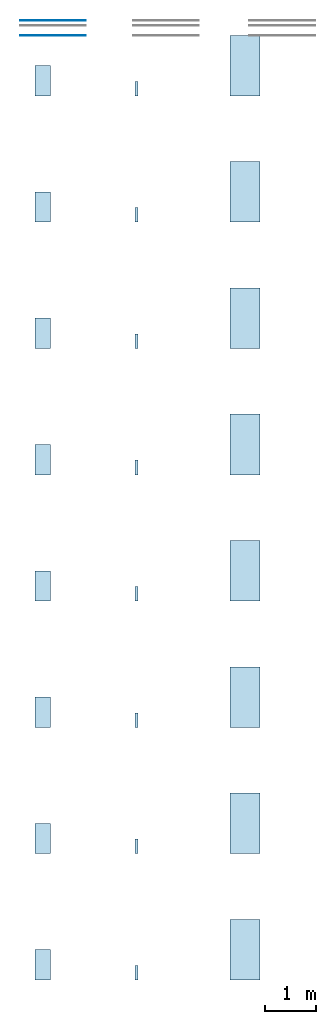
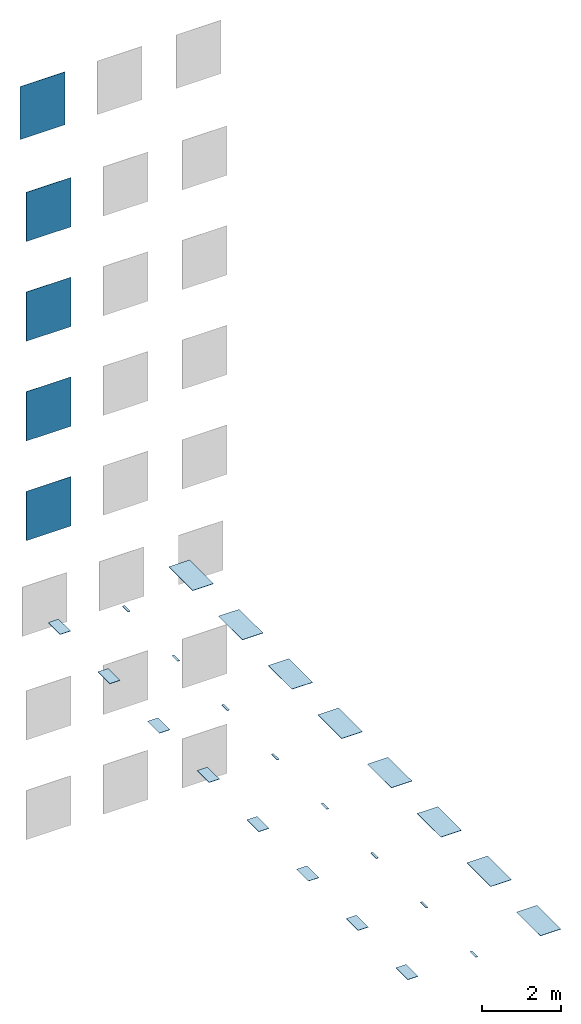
# One storey, part 1 of 2: 24 slabs, 5 walls.
"""IFC2X3 building model written with IfcOpenShell, lengths in millimetres."""

from ifc_helpers import new_model, entity, si_unit, converted_unit, derived_unit, direction, frame, frame_2d, origin, place, context, subcontext, project, spatial, rectangle, extrude, material, layer, layer_set, layer_usage, type_object, element, save


model = new_model("IFC2X3")

# Units and contexts
model_context = context("Model", 3, precision=0.01, world=origin(), true_north=direction((6.123031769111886e-17, 1.0)))
body_context = subcontext(model_context, "Body", "Model", "MODEL_VIEW")
ifc_project = project(units=[si_unit("LENGTHUNIT", "METRE", prefix="MILLI"), si_unit("AREAUNIT", "SQUARE_METRE"), si_unit("VOLUMEUNIT", "CUBIC_METRE"), converted_unit("PLANEANGLEUNIT", "DEGREE", entity("IfcPlaneAngleMeasure", 0.017453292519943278), si_unit("PLANEANGLEUNIT", "RADIAN"), dimensions=[0, 0, 0, 0, 0, 0, 0]), si_unit("MASSUNIT", "GRAM", prefix="KILO"), derived_unit("MASSDENSITYUNIT", [(si_unit("MASSUNIT", "GRAM", prefix="KILO"), 1), (si_unit("LENGTHUNIT", "METRE"), -3)]), derived_unit("IONCONCENTRATIONUNIT", [(si_unit("MASSUNIT", "GRAM", prefix="KILO"), 1), (si_unit("LENGTHUNIT", "METRE"), -3)]), derived_unit("MOMENTOFINERTIAUNIT", [(si_unit("LENGTHUNIT", "METRE"), 4)]), si_unit("TIMEUNIT", "SECOND"), si_unit("FREQUENCYUNIT", "HERTZ"), si_unit("THERMODYNAMICTEMPERATUREUNIT", "DEGREE_CELSIUS"), derived_unit("THERMALTRANSMITTANCEUNIT", [(si_unit("MASSUNIT", "GRAM", prefix="KILO"), 1), (si_unit("THERMODYNAMICTEMPERATUREUNIT", "KELVIN"), -1), (si_unit("TIMEUNIT", "SECOND"), -3)]), derived_unit("THERMALCONDUCTANCEUNIT", [(si_unit("MASSUNIT", "GRAM", prefix="KILO"), 1), (si_unit("THERMODYNAMICTEMPERATUREUNIT", "KELVIN"), -1), (si_unit("TIMEUNIT", "SECOND"), -3), (si_unit("LENGTHUNIT", "METRE"), 1)]), derived_unit("VOLUMETRICFLOWRATEUNIT", [(si_unit("LENGTHUNIT", "METRE", prefix="DECI"), 3), (si_unit("TIMEUNIT", "SECOND"), -1)]), derived_unit("MASSFLOWRATEUNIT", [(si_unit("MASSUNIT", "GRAM", prefix="KILO"), 1), (si_unit("TIMEUNIT", "SECOND"), -1)]), derived_unit("ROTATIONALFREQUENCYUNIT", [(si_unit("TIMEUNIT", "SECOND"), -1)]), si_unit("ELECTRICCURRENTUNIT", "AMPERE"), si_unit("ELECTRICVOLTAGEUNIT", "VOLT"), si_unit("POWERUNIT", "WATT"), si_unit("FORCEUNIT", "NEWTON", prefix="KILO"), si_unit("ILLUMINANCEUNIT", "LUX"), si_unit("LUMINOUSFLUXUNIT", "LUMEN"), si_unit("LUMINOUSINTENSITYUNIT", "CANDELA"), si_unit("ENERGYUNIT", "JOULE"), derived_unit("USERDEFINED", [(si_unit("MASSUNIT", "GRAM", prefix="KILO"), -1), (si_unit("LENGTHUNIT", "METRE"), -2), (si_unit("TIMEUNIT", "SECOND"), 3), (si_unit("LUMINOUSFLUXUNIT", "LUMEN"), 1)]), derived_unit("USERDEFINED", [(si_unit("MASSUNIT", "GRAM", prefix="KILO"), 1), (si_unit("TIMEUNIT", "SECOND"), -3), (si_unit("LENGTHUNIT", "METRE"), 3), (si_unit("ELECTRICCURRENTUNIT", "AMPERE"), -2)]), derived_unit("SOUNDPOWERUNIT", [(si_unit("MASSUNIT", "GRAM", prefix="KILO"), 1), (si_unit("TIMEUNIT", "SECOND"), -3), (si_unit("LENGTHUNIT", "METRE"), 2)]), derived_unit("SOUNDPRESSUREUNIT", [(si_unit("MASSUNIT", "GRAM", prefix="KILO"), 1), (si_unit("LENGTHUNIT", "METRE"), -1), (si_unit("TIMEUNIT", "SECOND"), -2)]), derived_unit("LINEARVELOCITYUNIT", [(si_unit("LENGTHUNIT", "METRE"), 1), (si_unit("TIMEUNIT", "SECOND"), -1)]), si_unit("PRESSUREUNIT", "PASCAL"), derived_unit("USERDEFINED", [(si_unit("MASSUNIT", "GRAM", prefix="KILO"), 1), (si_unit("LENGTHUNIT", "METRE"), -2), (si_unit("TIMEUNIT", "SECOND"), -2)]), derived_unit("LINEARFORCEUNIT", [(si_unit("MASSUNIT", "GRAM", prefix="KILO"), 1), (si_unit("TIMEUNIT", "SECOND"), -2)]), derived_unit("PLANARFORCEUNIT", [(si_unit("MASSUNIT", "GRAM", prefix="KILO"), 1), (si_unit("LENGTHUNIT", "METRE"), -1), (si_unit("TIMEUNIT", "SECOND"), -2)]), derived_unit("SPECIFICHEATCAPACITYUNIT", [(si_unit("THERMODYNAMICTEMPERATUREUNIT", "KELVIN"), -1), (si_unit("LENGTHUNIT", "METRE"), 2), (si_unit("TIMEUNIT", "SECOND"), -2)]), derived_unit("HEATFLUXDENSITYUNIT", [(si_unit("MASSUNIT", "GRAM", prefix="KILO"), 1), (si_unit("TIMEUNIT", "SECOND"), -3)]), derived_unit("HEATINGVALUEUNIT", [(si_unit("LENGTHUNIT", "METRE"), 2), (si_unit("TIMEUNIT", "SECOND"), -2)]), derived_unit("VAPORPERMEABILITYUNIT", [(si_unit("LENGTHUNIT", "METRE"), -1), (si_unit("TIMEUNIT", "SECOND"), 1)]), derived_unit("DYNAMICVISCOSITYUNIT", [(si_unit("MASSUNIT", "GRAM", prefix="KILO"), 1), (si_unit("TIMEUNIT", "SECOND"), -1), (si_unit("LENGTHUNIT", "METRE"), -1)]), derived_unit("THERMALEXPANSIONCOEFFICIENTUNIT", [(si_unit("THERMODYNAMICTEMPERATUREUNIT", "KELVIN"), -1)]), derived_unit("MODULUSOFELASTICITYUNIT", [(si_unit("MASSUNIT", "GRAM", prefix="KILO"), 1), (si_unit("LENGTHUNIT", "METRE"), -1), (si_unit("TIMEUNIT", "SECOND"), -2)]), derived_unit("ISOTHERMALMOISTURECAPACITYUNIT", [(si_unit("MASSUNIT", "GRAM", prefix="KILO"), -1), (si_unit("LENGTHUNIT", "METRE"), 3)]), derived_unit("MOISTUREDIFFUSIVITYUNIT", [(si_unit("TIMEUNIT", "SECOND"), -1), (si_unit("LENGTHUNIT", "METRE"), 2)]), derived_unit("MASSPERLENGTHUNIT", [(si_unit("MASSUNIT", "GRAM", prefix="KILO"), 1), (si_unit("LENGTHUNIT", "METRE"), -1)]), derived_unit("THERMALRESISTANCEUNIT", [(si_unit("MASSUNIT", "GRAM", prefix="KILO"), -1), (si_unit("TIMEUNIT", "SECOND"), 3), (si_unit("THERMODYNAMICTEMPERATUREUNIT", "KELVIN"), 1)]), derived_unit("ACCELERATIONUNIT", [(si_unit("LENGTHUNIT", "METRE"), 1), (si_unit("TIMEUNIT", "SECOND"), -2)]), derived_unit("ANGULARVELOCITYUNIT", [(si_unit("TIMEUNIT", "SECOND"), -1), (si_unit("PLANEANGLEUNIT", "RADIAN"), 1)]), derived_unit("LINEARSTIFFNESSUNIT", [(si_unit("MASSUNIT", "GRAM", prefix="KILO"), 1), (si_unit("TIMEUNIT", "SECOND"), -2)]), derived_unit("WARPINGCONSTANTUNIT", [(si_unit("LENGTHUNIT", "METRE"), 6)]), derived_unit("LINEARMOMENTUNIT", [(si_unit("MASSUNIT", "GRAM", prefix="KILO"), 1), (si_unit("LENGTHUNIT", "METRE"), 1), (si_unit("TIMEUNIT", "SECOND"), -2)]), derived_unit("TORQUEUNIT", [(si_unit("MASSUNIT", "GRAM", prefix="KILO"), 1), (si_unit("LENGTHUNIT", "METRE"), 2), (si_unit("TIMEUNIT", "SECOND"), -2)])], contexts=[model_context])

# Site, building, storey
site_placement = place(None, origin())
site = spatial("IfcSite", under=ifc_project, at=site_placement, Name="Default", CompositionType="ELEMENT")
building_placement = place(site_placement, origin())
building = spatial("IfcBuilding", under=site, at=building_placement, CompositionType="ELEMENT")
storey_placement = place(building_placement, origin())
storey = spatial("IfcBuildingStorey", under=building, at=storey_placement, Name="Level 0", CompositionType="ELEMENT", Elevation=0.0)

# Slabs
ifc_material_1 = material(Name="Upside-Black-30x60 RK33")
ifc_layer_1 = layer(ifc_material_1, 9.0)
ifc_material_2 = material(Name="<Unnamed>")
ifc_layer_2 = layer(ifc_material_2, 1.0)
ifc_layer_set_1 = layer_set([ifc_layer_1, ifc_layer_2], Name="Floor:Floor_Tiles_Refin-Upside-Black-30x60 RK33")
ifc_layer_usage_1 = layer_usage(ifc_layer_set_1, "AXIS3", "POSITIVE", 0.0)
slab_type_1 = type_object("IfcSlabType", Name="Floor:Floor_Tiles_Refin-Upside-Black-30x60 RK33", PredefinedType="FLOOR", material=ifc_layer_set_1)
slab_1_placement = place(storey_placement, origin())
element("IfcSlab", 1, at=slab_1_placement, inside=storey, type_object=slab_type_1, material=ifc_layer_usage_1, Name="Floor:Floor_Tiles_Refin-Upside-Black-30x60 RK33", ObjectType="Floor:Floor_Tiles_Refin-Upside-Black-30x60 RK33", PredefinedType="FLOOR", context=body_context, shape_type="SweptSolid", body=[
    extrude(rectangle(XDim=600.0, YDim=300.0, at=frame_2d((1.0800249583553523e-12, -5.400124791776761e-13), x_axis=(1.0, 0.0))), frame((6824.375206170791, 6939.462374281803, 0.0), z_axis=(0.0, 0.0, -1.0), x_axis=(0.0, 1.0, 0.0)), (0.0, 0.0, 1.0), 10.0),
])
ifc_material_3 = material(Name="Upside-Black-6,3x29 RK41")
ifc_layer_3 = layer(ifc_material_3, 9.0)
ifc_layer_4 = layer(ifc_material_2, 1.0)
ifc_layer_set_2 = layer_set([ifc_layer_3, ifc_layer_4], Name="Floor:Floor_Tiles_Refin-Upside-Black-6,3x29 RK41")
ifc_layer_usage_2 = layer_usage(ifc_layer_set_2, "AXIS3", "POSITIVE", 0.0)
slab_type_2 = type_object("IfcSlabType", Name="Floor:Floor_Tiles_Refin-Upside-Black-6,3x29 RK41", PredefinedType="FLOOR", material=ifc_layer_set_2)
slab_2_placement = place(storey_placement, origin())
element("IfcSlab", 2, at=slab_2_placement, inside=storey, type_object=slab_type_2, material=ifc_layer_usage_2, Name="Floor:Floor_Tiles_Refin-Upside-Black-6,3x29 RK41", ObjectType="Floor:Floor_Tiles_Refin-Upside-Black-6,3x29 RK41", PredefinedType="FLOOR", context=body_context, shape_type="SweptSolid", body=[
    extrude(rectangle(XDim=290.0000000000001, YDim=62.99999999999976, at=frame_2d((5.400124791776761e-13, 5.417888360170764e-13), x_axis=(1.0, 0.0))), frame((8678.89240545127, 6784.462374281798, 0.0), z_axis=(0.0, 0.0, -1.0), x_axis=(0.0, 1.0, 0.0)), (0.0, 0.0, 1.0), 10.0),
])
ifc_material_4 = material(Name="Upside-Black-60x120 RK25")
ifc_layer_5 = layer(ifc_material_4, 9.0)
ifc_layer_6 = layer(ifc_material_2, 1.0)
ifc_layer_set_3 = layer_set([ifc_layer_5, ifc_layer_6], Name="Floor:Floor_Tiles_Refin-Upside-Black-60x120 RK25")
ifc_layer_usage_3 = layer_usage(ifc_layer_set_3, "AXIS3", "POSITIVE", 0.0)
slab_type_3 = type_object("IfcSlabType", Name="Floor:Floor_Tiles_Refin-Upside-Black-60x120 RK25", PredefinedType="FLOOR", material=ifc_layer_set_3)
slab_3_placement = place(storey_placement, origin())
element("IfcSlab", 3, at=slab_3_placement, inside=storey, type_object=slab_type_3, material=ifc_layer_usage_3, Name="Floor:Floor_Tiles_Refin-Upside-Black-60x120 RK25", ObjectType="Floor:Floor_Tiles_Refin-Upside-Black-60x120 RK25", PredefinedType="FLOOR", context=body_context, shape_type="SweptSolid", body=[
    extrude(rectangle(XDim=1200.0, YDim=600.0, at=frame_2d((0.0, 1.0800249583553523e-12), x_axis=(1.0, 0.0))), frame((10827.186141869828, 7239.462374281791, 0.0), z_axis=(0.0, 0.0, -1.0), x_axis=(0.0, 1.0, 0.0)), (0.0, 0.0, 1.0), 10.0),
])
ifc_material_5 = material(Name="Upside-Blue-30x60 RK34")
ifc_layer_7 = layer(ifc_material_5, 9.0)
ifc_layer_8 = layer(ifc_material_2, 1.0)
ifc_layer_set_4 = layer_set([ifc_layer_7, ifc_layer_8], Name="Floor:Floor_Tiles_Refin-Upside-Blue-30x60 RK34")
ifc_layer_usage_4 = layer_usage(ifc_layer_set_4, "AXIS3", "POSITIVE", 0.0)
slab_type_4 = type_object("IfcSlabType", Name="Floor:Floor_Tiles_Refin-Upside-Blue-30x60 RK34", PredefinedType="FLOOR", material=ifc_layer_set_4)
slab_4_placement = place(storey_placement, origin())
element("IfcSlab", 4, at=slab_4_placement, inside=storey, type_object=slab_type_4, material=ifc_layer_usage_4, Name="Floor:Floor_Tiles_Refin-Upside-Blue-30x60 RK34", ObjectType="Floor:Floor_Tiles_Refin-Upside-Blue-30x60 RK34", PredefinedType="FLOOR", context=body_context, shape_type="SweptSolid", body=[
    extrude(rectangle(XDim=600.0, YDim=300.0, at=frame_2d((0.0, 5.400124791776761e-13), x_axis=(1.0, 0.0))), frame((6824.375206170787, 4439.462374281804, 0.0), z_axis=(0.0, 0.0, -1.0), x_axis=(0.0, 1.0, 0.0)), (0.0, 0.0, 1.0), 10.0),
])
ifc_material_6 = material(Name="Upside-Blue-6,3x29 RK42")
ifc_layer_9 = layer(ifc_material_6, 9.0)
ifc_layer_10 = layer(ifc_material_2, 1.0)
ifc_layer_set_5 = layer_set([ifc_layer_9, ifc_layer_10], Name="Floor:Floor_Tiles_Refin-Upside-Blue-6,3x29 RK42")
ifc_layer_usage_5 = layer_usage(ifc_layer_set_5, "AXIS3", "POSITIVE", 0.0)
slab_type_5 = type_object("IfcSlabType", Name="Floor:Floor_Tiles_Refin-Upside-Blue-6,3x29 RK42", PredefinedType="FLOOR", material=ifc_layer_set_5)
slab_5_placement = place(storey_placement, origin())
element("IfcSlab", 5, at=slab_5_placement, inside=storey, type_object=slab_type_5, material=ifc_layer_usage_5, Name="Floor:Floor_Tiles_Refin-Upside-Blue-6,3x29 RK42", ObjectType="Floor:Floor_Tiles_Refin-Upside-Blue-6,3x29 RK42", PredefinedType="FLOOR", context=body_context, shape_type="SweptSolid", body=[
    extrude(rectangle(XDim=290.0000000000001, YDim=62.99999999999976, at=frame_2d((-5.400124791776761e-13, -5.417888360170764e-13), x_axis=(1.0, 0.0))), frame((8678.892405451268, 4284.4623742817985, 0.0), z_axis=(0.0, 0.0, -1.0), x_axis=(0.0, 1.0, 0.0)), (0.0, 0.0, 1.0), 10.0),
])
ifc_material_7 = material(Name="Upside-Blue-60x120 RK26")
ifc_layer_11 = layer(ifc_material_7, 9.0)
ifc_layer_12 = layer(ifc_material_2, 1.0)
ifc_layer_set_6 = layer_set([ifc_layer_11, ifc_layer_12], Name="Floor:Floor_Tiles_Refin-Upside-Blue-60x120 RK26")
ifc_layer_usage_6 = layer_usage(ifc_layer_set_6, "AXIS3", "POSITIVE", 0.0)
slab_type_6 = type_object("IfcSlabType", Name="Floor:Floor_Tiles_Refin-Upside-Blue-60x120 RK26", PredefinedType="FLOOR", material=ifc_layer_set_6)
slab_6_placement = place(storey_placement, origin())
element("IfcSlab", 6, at=slab_6_placement, inside=storey, type_object=slab_type_6, material=ifc_layer_usage_6, Name="Floor:Floor_Tiles_Refin-Upside-Blue-60x120 RK26", ObjectType="Floor:Floor_Tiles_Refin-Upside-Blue-60x120 RK26", PredefinedType="FLOOR", context=body_context, shape_type="SweptSolid", body=[
    extrude(rectangle(XDim=1200.0, YDim=600.0, at=frame_2d((0.0, 1.0800249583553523e-12), x_axis=(1.0, 0.0))), frame((10827.186141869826, 4739.462374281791, 0.0), z_axis=(0.0, 0.0, -1.0), x_axis=(0.0, 1.0, 0.0)), (0.0, 0.0, 1.0), 10.0),
])
ifc_material_8 = material(Name="Upside-Green-30x60 RK35")
ifc_layer_13 = layer(ifc_material_8, 9.0)
ifc_layer_14 = layer(ifc_material_2, 1.0)
ifc_layer_set_7 = layer_set([ifc_layer_13, ifc_layer_14], Name="Floor:Floor_Tiles_Refin-Upside-Green-30x60 RK35")
ifc_layer_usage_7 = layer_usage(ifc_layer_set_7, "AXIS3", "POSITIVE", 0.0)
slab_type_7 = type_object("IfcSlabType", Name="Floor:Floor_Tiles_Refin-Upside-Green-30x60 RK35", PredefinedType="FLOOR", material=ifc_layer_set_7)
slab_7_placement = place(storey_placement, origin())
element("IfcSlab", 7, at=slab_7_placement, inside=storey, type_object=slab_type_7, material=ifc_layer_usage_7, Name="Floor:Floor_Tiles_Refin-Upside-Green-30x60 RK35", ObjectType="Floor:Floor_Tiles_Refin-Upside-Green-30x60 RK35", PredefinedType="FLOOR", context=body_context, shape_type="SweptSolid", body=[
    extrude(rectangle(XDim=600.0, YDim=300.0, at=frame_2d((0.0, 5.400124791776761e-13), x_axis=(1.0, 0.0))), frame((6824.375206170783, 1939.462374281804, 0.0), z_axis=(0.0, 0.0, -1.0), x_axis=(0.0, 1.0, 0.0)), (0.0, 0.0, 1.0), 10.0),
])
ifc_material_9 = material(Name="Upside-Green-6,3x29 RK43")
ifc_layer_15 = layer(ifc_material_9, 9.0)
ifc_layer_16 = layer(ifc_material_2, 1.0)
ifc_layer_set_8 = layer_set([ifc_layer_15, ifc_layer_16], Name="Floor:Floor_Tiles_Refin-Upside-Green-6,3x29 RK43")
ifc_layer_usage_8 = layer_usage(ifc_layer_set_8, "AXIS3", "POSITIVE", 0.0)
slab_type_8 = type_object("IfcSlabType", Name="Floor:Floor_Tiles_Refin-Upside-Green-6,3x29 RK43", PredefinedType="FLOOR", material=ifc_layer_set_8)
slab_8_placement = place(storey_placement, origin())
element("IfcSlab", 8, at=slab_8_placement, inside=storey, type_object=slab_type_8, material=ifc_layer_usage_8, Name="Floor:Floor_Tiles_Refin-Upside-Green-6,3x29 RK43", ObjectType="Floor:Floor_Tiles_Refin-Upside-Green-6,3x29 RK43", PredefinedType="FLOOR", context=body_context, shape_type="SweptSolid", body=[
    extrude(rectangle(XDim=290.0000000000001, YDim=62.99999999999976, at=frame_2d((0.0, -5.417888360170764e-13), x_axis=(1.0, 0.0))), frame((8678.892405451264, 1784.4623742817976, 0.0), z_axis=(0.0, 0.0, -1.0), x_axis=(0.0, 1.0, 0.0)), (0.0, 0.0, 1.0), 10.0),
])
ifc_material_10 = material(Name="Upside-Green-60x120 RK27")
ifc_layer_17 = layer(ifc_material_10, 9.0)
ifc_layer_18 = layer(ifc_material_2, 1.0)
ifc_layer_set_9 = layer_set([ifc_layer_17, ifc_layer_18], Name="Floor:Floor_Tiles_Refin-Upside-Green-60x120 RK27")
ifc_layer_usage_9 = layer_usage(ifc_layer_set_9, "AXIS3", "POSITIVE", 0.0)
slab_type_9 = type_object("IfcSlabType", Name="Floor:Floor_Tiles_Refin-Upside-Green-60x120 RK27", PredefinedType="FLOOR", material=ifc_layer_set_9)
slab_9_placement = place(storey_placement, origin())
element("IfcSlab", 9, at=slab_9_placement, inside=storey, type_object=slab_type_9, material=ifc_layer_usage_9, Name="Floor:Floor_Tiles_Refin-Upside-Green-60x120 RK27", ObjectType="Floor:Floor_Tiles_Refin-Upside-Green-60x120 RK27", PredefinedType="FLOOR", context=body_context, shape_type="SweptSolid", body=[
    extrude(rectangle(XDim=1200.0, YDim=600.0, at=frame_2d((0.0, -1.0800249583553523e-12), x_axis=(1.0, 0.0))), frame((10827.186141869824, 2239.462374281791, 0.0), z_axis=(0.0, 0.0, -1.0), x_axis=(0.0, 1.0, 0.0)), (0.0, 0.0, 1.0), 10.0),
])
ifc_material_11 = material(Name="Upside-Pink-30x60 RK37")
ifc_layer_19 = layer(ifc_material_11, 9.0)
ifc_layer_20 = layer(ifc_material_2, 1.0)
ifc_layer_set_10 = layer_set([ifc_layer_19, ifc_layer_20], Name="Floor:Floor_Tiles_Refin-Upside-Pink-30x60 RK37")
ifc_layer_usage_10 = layer_usage(ifc_layer_set_10, "AXIS3", "POSITIVE", 0.0)
slab_type_10 = type_object("IfcSlabType", Name="Floor:Floor_Tiles_Refin-Upside-Pink-30x60 RK37", PredefinedType="FLOOR", material=ifc_layer_set_10)
slab_10_placement = place(storey_placement, origin())
element("IfcSlab", 10, at=slab_10_placement, inside=storey, type_object=slab_type_10, material=ifc_layer_usage_10, Name="Floor:Floor_Tiles_Refin-Upside-Pink-30x60 RK37", ObjectType="Floor:Floor_Tiles_Refin-Upside-Pink-30x60 RK37", PredefinedType="FLOOR", context=body_context, shape_type="SweptSolid", body=[
    extrude(rectangle(XDim=600.0, YDim=300.0, at=frame_2d((0.0, 5.400124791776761e-13), x_axis=(1.0, 0.0))), frame((6824.375206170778, -560.5376257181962, 0.0), z_axis=(0.0, 0.0, -1.0), x_axis=(0.0, 1.0, 0.0)), (0.0, 0.0, 1.0), 10.0),
])
ifc_material_12 = material(Name="Upside-Pink-6,3x29 RK45")
ifc_layer_21 = layer(ifc_material_12, 9.0)
ifc_layer_22 = layer(ifc_material_2, 1.0)
ifc_layer_set_11 = layer_set([ifc_layer_21, ifc_layer_22], Name="Floor:Floor_Tiles_Refin-Upside-Pink-6,3x29 RK45")
ifc_layer_usage_11 = layer_usage(ifc_layer_set_11, "AXIS3", "POSITIVE", 0.0)
slab_type_11 = type_object("IfcSlabType", Name="Floor:Floor_Tiles_Refin-Upside-Pink-6,3x29 RK45", PredefinedType="FLOOR", material=ifc_layer_set_11)
slab_11_placement = place(storey_placement, origin())
element("IfcSlab", 11, at=slab_11_placement, inside=storey, type_object=slab_type_11, material=ifc_layer_usage_11, Name="Floor:Floor_Tiles_Refin-Upside-Pink-6,3x29 RK45", ObjectType="Floor:Floor_Tiles_Refin-Upside-Pink-6,3x29 RK45", PredefinedType="FLOOR", context=body_context, shape_type="SweptSolid", body=[
    extrude(rectangle(XDim=290.0000000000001, YDim=62.99999999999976, at=frame_2d((0.0, -5.417888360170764e-13), x_axis=(1.0, 0.0))), frame((8678.892405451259, -715.5376257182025, 0.0), z_axis=(0.0, 0.0, -1.0), x_axis=(0.0, 1.0, 0.0)), (0.0, 0.0, 1.0), 10.0),
])
ifc_material_13 = material(Name="Upside-Pink-60x120 RK29")
ifc_layer_23 = layer(ifc_material_13, 9.0)
ifc_layer_24 = layer(ifc_material_2, 1.0)
ifc_layer_set_12 = layer_set([ifc_layer_23, ifc_layer_24], Name="Floor:Floor_Tiles_Refin-Upside-Pink-60x120 RK29")
ifc_layer_usage_12 = layer_usage(ifc_layer_set_12, "AXIS3", "POSITIVE", 0.0)
slab_type_12 = type_object("IfcSlabType", Name="Floor:Floor_Tiles_Refin-Upside-Pink-60x120 RK29", PredefinedType="FLOOR", material=ifc_layer_set_12)
slab_12_placement = place(storey_placement, origin())
element("IfcSlab", 12, at=slab_12_placement, inside=storey, type_object=slab_type_12, material=ifc_layer_usage_12, Name="Floor:Floor_Tiles_Refin-Upside-Pink-60x120 RK29", ObjectType="Floor:Floor_Tiles_Refin-Upside-Pink-60x120 RK29", PredefinedType="FLOOR", context=body_context, shape_type="SweptSolid", body=[
    extrude(rectangle(XDim=1200.0, YDim=600.0, at=frame_2d((0.0, 1.0800249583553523e-12), x_axis=(1.0, 0.0))), frame((10827.186141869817, -260.5376257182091, 0.0), z_axis=(0.0, 0.0, -1.0), x_axis=(0.0, 1.0, 0.0)), (0.0, 0.0, 1.0), 10.0),
])
ifc_material_14 = material(Name="Upside-Red-30x60 RK38")
ifc_layer_25 = layer(ifc_material_14, 9.0)
ifc_layer_26 = layer(ifc_material_2, 1.0)
ifc_layer_set_13 = layer_set([ifc_layer_25, ifc_layer_26], Name="Floor:Floor_Tiles_Refin-Upside-Red-30x60 RK38")
ifc_layer_usage_13 = layer_usage(ifc_layer_set_13, "AXIS3", "POSITIVE", 0.0)
slab_type_13 = type_object("IfcSlabType", Name="Floor:Floor_Tiles_Refin-Upside-Red-30x60 RK38", PredefinedType="FLOOR", material=ifc_layer_set_13)
slab_13_placement = place(storey_placement, origin())
element("IfcSlab", 13, at=slab_13_placement, inside=storey, type_object=slab_type_13, material=ifc_layer_usage_13, Name="Floor:Floor_Tiles_Refin-Upside-Red-30x60 RK38", ObjectType="Floor:Floor_Tiles_Refin-Upside-Red-30x60 RK38", PredefinedType="FLOOR", context=body_context, shape_type="SweptSolid", body=[
    extrude(rectangle(XDim=600.0, YDim=300.0, at=frame_2d((0.0, 5.400124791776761e-13), x_axis=(1.0, 0.0))), frame((6824.375206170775, -3060.537625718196, 0.0), z_axis=(0.0, 0.0, -1.0), x_axis=(0.0, 1.0, 0.0)), (0.0, 0.0, 1.0), 10.0),
])
ifc_material_15 = material(Name="Upside-Red-6,3x29 RK46")
ifc_layer_27 = layer(ifc_material_15, 9.0)
ifc_layer_28 = layer(ifc_material_2, 1.0)
ifc_layer_set_14 = layer_set([ifc_layer_27, ifc_layer_28], Name="Floor:Floor_Tiles_Refin-Upside-Red-6,3x29 RK46")
ifc_layer_usage_14 = layer_usage(ifc_layer_set_14, "AXIS3", "POSITIVE", 0.0)
slab_type_14 = type_object("IfcSlabType", Name="Floor:Floor_Tiles_Refin-Upside-Red-6,3x29 RK46", PredefinedType="FLOOR", material=ifc_layer_set_14)
slab_14_placement = place(storey_placement, origin())
element("IfcSlab", 14, at=slab_14_placement, inside=storey, type_object=slab_type_14, material=ifc_layer_usage_14, Name="Floor:Floor_Tiles_Refin-Upside-Red-6,3x29 RK46", ObjectType="Floor:Floor_Tiles_Refin-Upside-Red-6,3x29 RK46", PredefinedType="FLOOR", context=body_context, shape_type="SweptSolid", body=[
    extrude(rectangle(XDim=290.0000000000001, YDim=62.99999999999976, at=frame_2d((0.0, -5.417888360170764e-13), x_axis=(1.0, 0.0))), frame((8678.892405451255, -3215.537625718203, 0.0), z_axis=(0.0, 0.0, -1.0), x_axis=(0.0, 1.0, 0.0)), (0.0, 0.0, 1.0), 10.0),
])
ifc_material_16 = material(Name="Upside-Red-60x120 RK30")
ifc_layer_29 = layer(ifc_material_16, 9.0)
ifc_layer_30 = layer(ifc_material_2, 1.0)
ifc_layer_set_15 = layer_set([ifc_layer_29, ifc_layer_30], Name="Floor:Floor_Tiles_Refin-Upside-Red-60x120 RK30")
ifc_layer_usage_15 = layer_usage(ifc_layer_set_15, "AXIS3", "POSITIVE", 0.0)
slab_type_15 = type_object("IfcSlabType", Name="Floor:Floor_Tiles_Refin-Upside-Red-60x120 RK30", PredefinedType="FLOOR", material=ifc_layer_set_15)
slab_15_placement = place(storey_placement, origin())
element("IfcSlab", 15, at=slab_15_placement, inside=storey, type_object=slab_type_15, material=ifc_layer_usage_15, Name="Floor:Floor_Tiles_Refin-Upside-Red-60x120 RK30", ObjectType="Floor:Floor_Tiles_Refin-Upside-Red-60x120 RK30", PredefinedType="FLOOR", context=body_context, shape_type="SweptSolid", body=[
    extrude(rectangle(XDim=1200.0, YDim=600.0, at=frame_2d((0.0, -1.0800249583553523e-12), x_axis=(1.0, 0.0))), frame((10827.186141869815, -2760.5376257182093, 0.0), z_axis=(0.0, 0.0, -1.0), x_axis=(0.0, 1.0, 0.0)), (0.0, 0.0, 1.0), 10.0),
])
ifc_material_17 = material(Name="Upside-Sky-30x60 RK39")
ifc_layer_31 = layer(ifc_material_17, 9.0)
ifc_layer_32 = layer(ifc_material_2, 1.0)
ifc_layer_set_16 = layer_set([ifc_layer_31, ifc_layer_32], Name="Floor:Floor_Tiles_Refin-Upside-Sky-30x60 RK39")
ifc_layer_usage_16 = layer_usage(ifc_layer_set_16, "AXIS3", "POSITIVE", 0.0)
slab_type_16 = type_object("IfcSlabType", Name="Floor:Floor_Tiles_Refin-Upside-Sky-30x60 RK39", PredefinedType="FLOOR", material=ifc_layer_set_16)
slab_16_placement = place(storey_placement, origin())
element("IfcSlab", 16, at=slab_16_placement, inside=storey, type_object=slab_type_16, material=ifc_layer_usage_16, Name="Floor:Floor_Tiles_Refin-Upside-Sky-30x60 RK39", ObjectType="Floor:Floor_Tiles_Refin-Upside-Sky-30x60 RK39", PredefinedType="FLOOR", context=body_context, shape_type="SweptSolid", body=[
    extrude(rectangle(XDim=600.0, YDim=300.0, at=frame_2d((0.0, 5.400124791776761e-13), x_axis=(1.0, 0.0))), frame((6824.37520617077, -5560.537625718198, 0.0), z_axis=(0.0, 0.0, -1.0), x_axis=(0.0, 1.0, 0.0)), (0.0, 0.0, 1.0), 10.0),
])
ifc_material_18 = material(Name="Upside-Sky-6,3x29 RK47")
ifc_layer_33 = layer(ifc_material_18, 9.0)
ifc_layer_34 = layer(ifc_material_2, 1.0)
ifc_layer_set_17 = layer_set([ifc_layer_33, ifc_layer_34], Name="Floor:Floor_Tiles_Refin-Upside-Sky-6,3x29 RK47")
ifc_layer_usage_17 = layer_usage(ifc_layer_set_17, "AXIS3", "POSITIVE", 0.0)
slab_type_17 = type_object("IfcSlabType", Name="Floor:Floor_Tiles_Refin-Upside-Sky-6,3x29 RK47", PredefinedType="FLOOR", material=ifc_layer_set_17)
slab_17_placement = place(storey_placement, origin())
element("IfcSlab", 17, at=slab_17_placement, inside=storey, type_object=slab_type_17, material=ifc_layer_usage_17, Name="Floor:Floor_Tiles_Refin-Upside-Sky-6,3x29 RK47", ObjectType="Floor:Floor_Tiles_Refin-Upside-Sky-6,3x29 RK47", PredefinedType="FLOOR", context=body_context, shape_type="SweptSolid", body=[
    extrude(rectangle(XDim=290.0000000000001, YDim=62.99999999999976, at=frame_2d((5.400124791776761e-13, -5.417888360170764e-13), x_axis=(1.0, 0.0))), frame((8678.89240545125, -5715.537625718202, 0.0), z_axis=(0.0, 0.0, -1.0), x_axis=(0.0, 1.0, 0.0)), (0.0, 0.0, 1.0), 10.0),
])
ifc_material_19 = material(Name="Upside-Sky-60x120 RK31")
ifc_layer_35 = layer(ifc_material_19, 9.0)
ifc_layer_36 = layer(ifc_material_2, 1.0)
ifc_layer_set_18 = layer_set([ifc_layer_35, ifc_layer_36], Name="Floor:Floor_Tiles_Refin-Upside-Sky-60x120 RK31")
ifc_layer_usage_18 = layer_usage(ifc_layer_set_18, "AXIS3", "POSITIVE", 0.0)
slab_type_18 = type_object("IfcSlabType", Name="Floor:Floor_Tiles_Refin-Upside-Sky-60x120 RK31", PredefinedType="FLOOR", material=ifc_layer_set_18)
slab_18_placement = place(storey_placement, origin())
element("IfcSlab", 18, at=slab_18_placement, inside=storey, type_object=slab_type_18, material=ifc_layer_usage_18, Name="Floor:Floor_Tiles_Refin-Upside-Sky-60x120 RK31", ObjectType="Floor:Floor_Tiles_Refin-Upside-Sky-60x120 RK31", PredefinedType="FLOOR", context=body_context, shape_type="SweptSolid", body=[
    extrude(rectangle(XDim=1200.0, YDim=600.0, at=frame_2d((0.0, 1.0800249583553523e-12), x_axis=(1.0, 0.0))), frame((10827.18614186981, -5260.537625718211, 0.0), z_axis=(0.0, 0.0, -1.0), x_axis=(0.0, 1.0, 0.0)), (0.0, 0.0, 1.0), 10.0),
])
ifc_material_20 = material(Name="Upside-White-30x60 RK40")
ifc_layer_37 = layer(ifc_material_20, 9.0)
ifc_layer_38 = layer(ifc_material_2, 1.0)
ifc_layer_set_19 = layer_set([ifc_layer_37, ifc_layer_38], Name="Floor:Floor_Tiles_Refin-Upside-White-30x60 RK40")
ifc_layer_usage_19 = layer_usage(ifc_layer_set_19, "AXIS3", "POSITIVE", 0.0)
slab_type_19 = type_object("IfcSlabType", Name="Floor:Floor_Tiles_Refin-Upside-White-30x60 RK40", PredefinedType="FLOOR", material=ifc_layer_set_19)
slab_19_placement = place(storey_placement, origin())
element("IfcSlab", 19, at=slab_19_placement, inside=storey, type_object=slab_type_19, material=ifc_layer_usage_19, Name="Floor:Floor_Tiles_Refin-Upside-White-30x60 RK40", ObjectType="Floor:Floor_Tiles_Refin-Upside-White-30x60 RK40", PredefinedType="FLOOR", context=body_context, shape_type="SweptSolid", body=[
    extrude(rectangle(XDim=600.0, YDim=300.0, at=frame_2d((0.0, 5.400124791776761e-13), x_axis=(1.0, 0.0))), frame((6824.3752061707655, -8060.537625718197, 0.0), z_axis=(0.0, 0.0, -1.0), x_axis=(0.0, 1.0, 0.0)), (0.0, 0.0, 1.0), 10.0),
])
ifc_material_21 = material(Name="Upside-White-6,3x29 RK48")
ifc_layer_39 = layer(ifc_material_21, 9.0)
ifc_layer_40 = layer(ifc_material_2, 1.0)
ifc_layer_set_20 = layer_set([ifc_layer_39, ifc_layer_40], Name="Floor:Floor_Tiles_Refin-Upside-White-6,3x29 RK48")
ifc_layer_usage_20 = layer_usage(ifc_layer_set_20, "AXIS3", "POSITIVE", 0.0)
slab_type_20 = type_object("IfcSlabType", Name="Floor:Floor_Tiles_Refin-Upside-White-6,3x29 RK48", PredefinedType="FLOOR", material=ifc_layer_set_20)
slab_20_placement = place(storey_placement, origin())
element("IfcSlab", 20, at=slab_20_placement, inside=storey, type_object=slab_type_20, material=ifc_layer_usage_20, Name="Floor:Floor_Tiles_Refin-Upside-White-6,3x29 RK48", ObjectType="Floor:Floor_Tiles_Refin-Upside-White-6,3x29 RK48", PredefinedType="FLOOR", context=body_context, shape_type="SweptSolid", body=[
    extrude(rectangle(XDim=290.0000000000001, YDim=62.99999999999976, at=frame_2d((5.400124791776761e-13, -5.417888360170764e-13), x_axis=(1.0, 0.0))), frame((8678.892405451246, -8215.537625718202, 0.0), z_axis=(0.0, 0.0, -1.0), x_axis=(0.0, 1.0, 0.0)), (0.0, 0.0, 1.0), 10.0),
])
ifc_material_22 = material(Name="Upside-White-60x120 RK32")
ifc_layer_41 = layer(ifc_material_22, 9.0)
ifc_layer_42 = layer(ifc_material_2, 1.0)
ifc_layer_set_21 = layer_set([ifc_layer_41, ifc_layer_42], Name="Floor:Floor_Tiles_Refin-Upside-White-60x120 RK32")
ifc_layer_usage_21 = layer_usage(ifc_layer_set_21, "AXIS3", "POSITIVE", 0.0)
slab_type_21 = type_object("IfcSlabType", Name="Floor:Floor_Tiles_Refin-Upside-White-60x120 RK32", PredefinedType="FLOOR", material=ifc_layer_set_21)
slab_21_placement = place(storey_placement, origin())
element("IfcSlab", 21, at=slab_21_placement, inside=storey, type_object=slab_type_21, material=ifc_layer_usage_21, Name="Floor:Floor_Tiles_Refin-Upside-White-60x120 RK32", ObjectType="Floor:Floor_Tiles_Refin-Upside-White-60x120 RK32", PredefinedType="FLOOR", context=body_context, shape_type="SweptSolid", body=[
    extrude(rectangle(XDim=1200.0, YDim=600.0, at=frame_2d((0.0, -1.0800249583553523e-12), x_axis=(1.0, 0.0))), frame((10827.186141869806, -7760.53762571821, 0.0), z_axis=(0.0, 0.0, -1.0), x_axis=(0.0, 1.0, 0.0)), (0.0, 0.0, 1.0), 10.0),
])
ifc_material_23 = material(Name="Upside-Yellow-30x60 RK36")
ifc_layer_43 = layer(ifc_material_23, 9.0)
ifc_layer_44 = layer(ifc_material_2, 1.0)
ifc_layer_set_22 = layer_set([ifc_layer_43, ifc_layer_44], Name="Floor:Floor_Tiles_Refin-Upside-Yellow-30x60 RK36")
ifc_layer_usage_22 = layer_usage(ifc_layer_set_22, "AXIS3", "POSITIVE", 0.0)
slab_type_22 = type_object("IfcSlabType", Name="Floor:Floor_Tiles_Refin-Upside-Yellow-30x60 RK36", PredefinedType="FLOOR", material=ifc_layer_set_22)
slab_22_placement = place(storey_placement, origin())
element("IfcSlab", 22, at=slab_22_placement, inside=storey, type_object=slab_type_22, material=ifc_layer_usage_22, Name="Floor:Floor_Tiles_Refin-Upside-Yellow-30x60 RK36", ObjectType="Floor:Floor_Tiles_Refin-Upside-Yellow-30x60 RK36", PredefinedType="FLOOR", context=body_context, shape_type="SweptSolid", body=[
    extrude(rectangle(XDim=600.0, YDim=300.0, at=frame_2d((-1.0800249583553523e-12, 5.400124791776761e-13), x_axis=(1.0, 0.0))), frame((6824.375206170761, -10560.537625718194, 0.0), z_axis=(0.0, 0.0, -1.0), x_axis=(0.0, 1.0, 0.0)), (0.0, 0.0, 1.0), 10.0),
])
ifc_material_24 = material(Name="Upside-Yellow-6,3x29 RK44")
ifc_layer_45 = layer(ifc_material_24, 9.0)
ifc_layer_46 = layer(ifc_material_2, 1.0)
ifc_layer_set_23 = layer_set([ifc_layer_45, ifc_layer_46], Name="Floor:Floor_Tiles_Refin-Upside-Yellow-6,3x29 RK44")
ifc_layer_usage_23 = layer_usage(ifc_layer_set_23, "AXIS3", "POSITIVE", 0.0)
slab_type_23 = type_object("IfcSlabType", Name="Floor:Floor_Tiles_Refin-Upside-Yellow-6,3x29 RK44", PredefinedType="FLOOR", material=ifc_layer_set_23)
slab_23_placement = place(storey_placement, origin())
element("IfcSlab", 23, at=slab_23_placement, inside=storey, type_object=slab_type_23, material=ifc_layer_usage_23, Name="Floor:Floor_Tiles_Refin-Upside-Yellow-6,3x29 RK44", ObjectType="Floor:Floor_Tiles_Refin-Upside-Yellow-6,3x29 RK44", PredefinedType="FLOOR", context=body_context, shape_type="SweptSolid", body=[
    extrude(rectangle(XDim=290.0000000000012, YDim=62.99999999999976, at=frame_2d((-1.0800249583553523e-12, -5.417888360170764e-13), x_axis=(1.0, 0.0))), frame((8678.892405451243, -10715.537625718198, 0.0), z_axis=(0.0, 0.0, -1.0), x_axis=(0.0, 1.0, 0.0)), (0.0, 0.0, 1.0), 10.0),
])
ifc_material_25 = material(Name="Upside-Yellow-60x120 RK28")
ifc_layer_47 = layer(ifc_material_25, 9.0)
ifc_layer_48 = layer(ifc_material_2, 1.0)
ifc_layer_set_24 = layer_set([ifc_layer_47, ifc_layer_48], Name="Floor:Floor_Tiles_Refin-Upside-Yellow-60x120 RK28")
ifc_layer_usage_24 = layer_usage(ifc_layer_set_24, "AXIS3", "POSITIVE", 0.0)
slab_type_24 = type_object("IfcSlabType", Name="Floor:Floor_Tiles_Refin-Upside-Yellow-60x120 RK28", PredefinedType="FLOOR", material=ifc_layer_set_24)
slab_24_placement = place(storey_placement, origin())
element("IfcSlab", 24, at=slab_24_placement, inside=storey, type_object=slab_type_24, material=ifc_layer_usage_24, Name="Floor:Floor_Tiles_Refin-Upside-Yellow-60x120 RK28", ObjectType="Floor:Floor_Tiles_Refin-Upside-Yellow-60x120 RK28", PredefinedType="FLOOR", context=body_context, shape_type="SweptSolid", body=[
    extrude(rectangle(XDim=1200.0, YDim=600.0, at=frame_2d((0.0, 1.0800249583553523e-12), x_axis=(1.0, 0.0))), frame((10827.1861418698, -10260.537625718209, 0.0), z_axis=(0.0, 0.0, -1.0), x_axis=(0.0, 1.0, 0.0)), (0.0, 0.0, 1.0), 10.0),
])

# Walls
ifc_layer_49 = layer(ifc_material_2, 1.0)
ifc_layer_50 = layer(ifc_material_1, 9.0)
ifc_layer_set_25 = layer_set([ifc_layer_49, ifc_layer_50], Name="Basic Wall:Wall_Tiles_Refin-Upside-Black-30x60 RK33")
ifc_layer_usage_25 = layer_usage(ifc_layer_set_25, "AXIS2", "NEGATIVE", 5.000000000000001)
wall_type_1 = type_object("IfcWallType", Name="Basic Wall:Wall_Tiles_Refin-Upside-Black-30x60 RK33", PredefinedType="STANDARD", material=ifc_layer_set_25)
wall_1_placement = place(storey_placement, frame((6374.375206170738, 8137.383863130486, 14403.726734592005)))
element("IfcWallStandardCase", 25, at=wall_1_placement, inside=storey, type_object=wall_type_1, material=ifc_layer_usage_25, Name="Basic Wall:Wall_Tiles_Refin-Upside-Black-30x60 RK33", ObjectType="Basic Wall:Wall_Tiles_Refin-Upside-Black-30x60 RK33", context=body_context, shape_type="SweptSolid", body=[
    extrude(rectangle(XDim=1300.0, YDim=9.999999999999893, at=frame_2d((650.0, 7.638334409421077e-14), x_axis=(-1.0, 0.0))), origin(), (0.0, 0.0, 1.0), 1625.692044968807),
])
ifc_layer_51 = layer(ifc_material_2, 1.0)
ifc_layer_52 = layer(ifc_material_5, 9.0)
ifc_layer_set_26 = layer_set([ifc_layer_51, ifc_layer_52], Name="Basic Wall:Wall_Tiles_Refin-Upside-Blue-30x60 RK34")
ifc_layer_usage_26 = layer_usage(ifc_layer_set_26, "AXIS2", "NEGATIVE", 5.000000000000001)
wall_type_2 = type_object("IfcWallType", Name="Basic Wall:Wall_Tiles_Refin-Upside-Blue-30x60 RK34", PredefinedType="STANDARD", material=ifc_layer_set_26)
wall_2_placement = place(storey_placement, frame((6374.375206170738, 7832.383863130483, 11452.543626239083)))
element("IfcWallStandardCase", 26, at=wall_2_placement, inside=storey, type_object=wall_type_2, material=ifc_layer_usage_26, Name="Basic Wall:Wall_Tiles_Refin-Upside-Blue-30x60 RK34", ObjectType="Basic Wall:Wall_Tiles_Refin-Upside-Blue-30x60 RK34", context=body_context, shape_type="SweptSolid", body=[
    extrude(rectangle(XDim=1300.0, YDim=9.999999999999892, at=frame_2d((650.0, 0.0), x_axis=(-1.0, 0.0))), origin(), (0.0, 0.0, 1.0), 1513.1985565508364),
])
ifc_layer_53 = layer(ifc_material_2, 1.0)
ifc_layer_54 = layer(ifc_material_8, 9.0)
ifc_layer_set_27 = layer_set([ifc_layer_53, ifc_layer_54], Name="Basic Wall:Wall_Tiles_Refin-Upside-Green-30x60 RK35")
ifc_layer_usage_27 = layer_usage(ifc_layer_set_27, "AXIS2", "NEGATIVE", 5.000000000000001)
wall_type_3 = type_object("IfcWallType", Name="Basic Wall:Wall_Tiles_Refin-Upside-Green-30x60 RK35", PredefinedType="STANDARD", material=ifc_layer_set_27)
wall_3_placement = place(storey_placement, frame((6374.3752061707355, 7832.383863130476, 8388.867029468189)))
element("IfcWallStandardCase", 27, at=wall_3_placement, inside=storey, type_object=wall_type_3, material=ifc_layer_usage_27, Name="Basic Wall:Wall_Tiles_Refin-Upside-Green-30x60 RK35", ObjectType="Basic Wall:Wall_Tiles_Refin-Upside-Green-30x60 RK35", context=body_context, shape_type="SweptSolid", body=[
    extrude(rectangle(XDim=1300.0000000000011, YDim=9.999999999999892, at=frame_2d((650.0000000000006, 0.0), x_axis=(-1.0, 0.0))), origin(), (0.0, 0.0, 1.0), 1513.1985565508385),
])
ifc_layer_55 = layer(ifc_material_2, 1.0)
ifc_layer_56 = layer(ifc_material_11, 9.0)
ifc_layer_set_28 = layer_set([ifc_layer_55, ifc_layer_56], Name="Basic Wall:Wall_Tiles_Refin-Upside-Pink-30x60 RK37")
ifc_layer_usage_28 = layer_usage(ifc_layer_set_28, "AXIS2", "NEGATIVE", 5.000000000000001)
wall_type_4 = type_object("IfcWallType", Name="Basic Wall:Wall_Tiles_Refin-Upside-Pink-30x60 RK37", PredefinedType="STANDARD", material=ifc_layer_set_28)
wall_4_placement = place(storey_placement, frame((6374.375206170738, 7832.383863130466, 5325.1904326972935)))
element("IfcWallStandardCase", 28, at=wall_4_placement, inside=storey, type_object=wall_type_4, material=ifc_layer_usage_28, Name="Basic Wall:Wall_Tiles_Refin-Upside-Pink-30x60 RK37", ObjectType="Basic Wall:Wall_Tiles_Refin-Upside-Pink-30x60 RK37", context=body_context, shape_type="SweptSolid", body=[
    extrude(rectangle(XDim=1300.0, YDim=9.999999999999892, at=frame_2d((650.0, 0.0), x_axis=(-1.0, 0.0))), origin(), (0.0, 0.0, 1.0), 1513.1985565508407),
])
ifc_layer_57 = layer(ifc_material_2, 1.0)
ifc_layer_58 = layer(ifc_material_14, 9.0)
ifc_layer_set_29 = layer_set([ifc_layer_57, ifc_layer_58], Name="Basic Wall:Wall_Tiles_Refin-Upside-Red-30x60 RK38")
ifc_layer_usage_29 = layer_usage(ifc_layer_set_29, "AXIS2", "NEGATIVE", 5.000000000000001)
wall_type_5 = type_object("IfcWallType", Name="Basic Wall:Wall_Tiles_Refin-Upside-Red-30x60 RK38", PredefinedType="STANDARD", material=ifc_layer_set_29)
wall_5_placement = place(storey_placement, frame((6374.3752061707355, 7832.383863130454, 2261.5138359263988)))
element("IfcWallStandardCase", 29, at=wall_5_placement, inside=storey, type_object=wall_type_5, material=ifc_layer_usage_29, Name="Basic Wall:Wall_Tiles_Refin-Upside-Red-30x60 RK38", ObjectType="Basic Wall:Wall_Tiles_Refin-Upside-Red-30x60 RK38", context=body_context, shape_type="SweptSolid", body=[
    extrude(rectangle(XDim=1300.0000000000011, YDim=9.999999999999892, at=frame_2d((650.0000000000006, 0.0), x_axis=(-1.0, 0.0))), origin(), (0.0, 0.0, 1.0), 1513.1985565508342),
])

save(model, "model.ifc")
